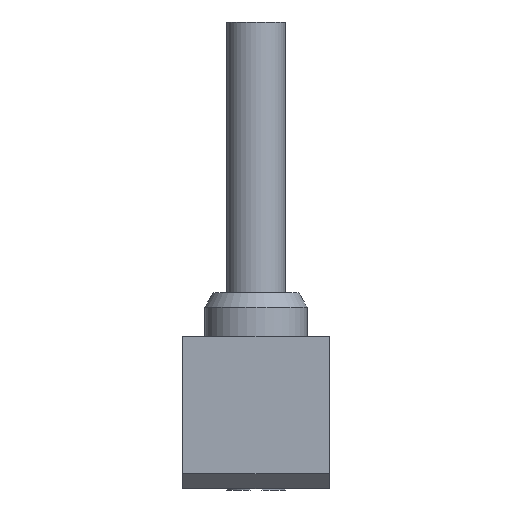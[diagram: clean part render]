
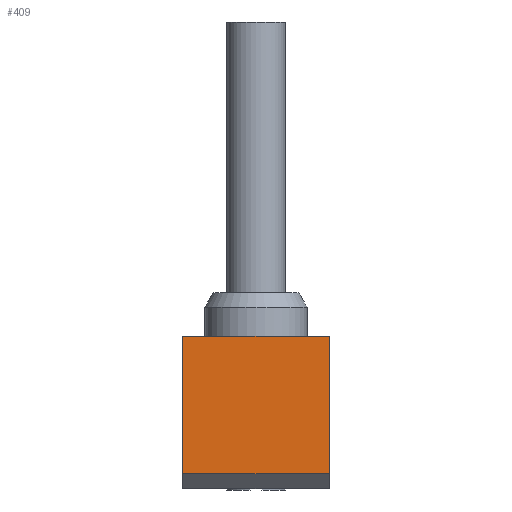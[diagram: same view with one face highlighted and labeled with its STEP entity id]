
A CAD part, left-side view. The second image highlights one B-rep face of the part: STEP entity #409.
In plain terms, the highlighted planar face has unit normal (-1, 0, 0).
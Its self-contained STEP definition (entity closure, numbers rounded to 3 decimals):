
#35=PLANE('',#467);
#66=FACE_OUTER_BOUND('',#95,.T.);
#95=EDGE_LOOP('',(#372,#373,#374,#375));
#129=LINE('',#679,#169);
#130=LINE('',#682,#170);
#136=LINE('',#697,#176);
#137=LINE('',#698,#177);
#169=VECTOR('',#562,10.);
#170=VECTOR('',#565,10.);
#176=VECTOR('',#581,10.);
#177=VECTOR('',#582,10.);
#220=VERTEX_POINT('',#675);
#221=VERTEX_POINT('',#677);
#222=VERTEX_POINT('',#681);
#226=VERTEX_POINT('',#696);
#269=EDGE_CURVE('',#221,#220,#129,.T.);
#270=EDGE_CURVE('',#222,#220,#130,.T.);
#277=EDGE_CURVE('',#226,#221,#136,.T.);
#278=EDGE_CURVE('',#226,#222,#137,.T.);
#372=ORIENTED_EDGE('',*,*,#269,.F.);
#373=ORIENTED_EDGE('',*,*,#277,.F.);
#374=ORIENTED_EDGE('',*,*,#278,.T.);
#375=ORIENTED_EDGE('',*,*,#270,.T.);
#409=ADVANCED_FACE('',(#66),#35,.T.);
#467=AXIS2_PLACEMENT_3D('',#695,#579,#580);
#562=DIRECTION('',(0.,1.,0.));
#565=DIRECTION('',(0.,0.,-1.));
#579=DIRECTION('center_axis',(-1.,0.,0.));
#580=DIRECTION('ref_axis',(0.,1.,0.));
#581=DIRECTION('',(0.,0.,-1.));
#582=DIRECTION('',(0.,1.,0.));
#675=CARTESIAN_POINT('',(-10.,5.,-9.4));
#677=CARTESIAN_POINT('',(-10.,-5.,-9.4));
#679=CARTESIAN_POINT('',(-10.,-2.5,-9.4));
#681=CARTESIAN_POINT('',(-10.,5.,0.));
#682=CARTESIAN_POINT('',(-10.,5.,0.));
#695=CARTESIAN_POINT('Origin',(-10.,-5.,0.));
#696=CARTESIAN_POINT('',(-10.,-5.,0.));
#697=CARTESIAN_POINT('',(-10.,-5.,0.));
#698=CARTESIAN_POINT('',(-10.,-5.,0.));
